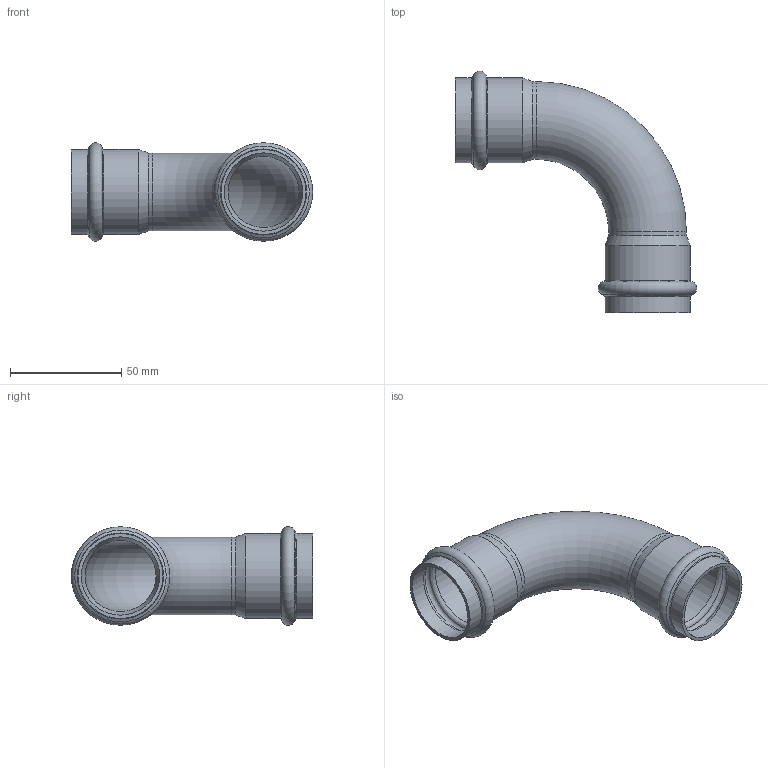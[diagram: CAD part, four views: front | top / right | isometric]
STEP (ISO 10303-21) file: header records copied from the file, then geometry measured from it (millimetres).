
FILE_DESCRIPTION((''),'2;1');
FILE_NAME('G:\Technics\CAD\Bauteile\035\69002A35(1).stp','2008-02-28T11:51:58',('herberg'),(''),'Autodesk Inventor 2008','Autodesk Inventor 2008','');
FILE_SCHEMA(('AUTOMOTIVE_DESIGN { 1 0 10303 214 1 1 1 1 }'));
Length unit declared in the file: millimetre
Products named in the file (1): 69002A35(1)
Bounding box: 108.64 x 108.65 x 44.29 mm (x, y, z)
Volume: 26323.5 mm3; surface area: 35445.8 mm2
Topology: 1 solids, 1 shells, 36 faces, 76 edges, 42 vertices
Faces by surface type: cylinder 12, cone 8, bspline 8, torus 6, plane 2
Full cylindrical faces by diameter (mm): 32 x2, 35 x2, 35.25 x4, 38.25 x4
Entity records: 1074 total; most frequent: CARTESIAN_POINT 461, DIRECTION 130, ORIENTED_EDGE 72, EDGE_LOOP 72, AXIS2_PLACEMENT_3D 65, VERTEX_POINT 36, CIRCLE 36, EDGE_CURVE 36
